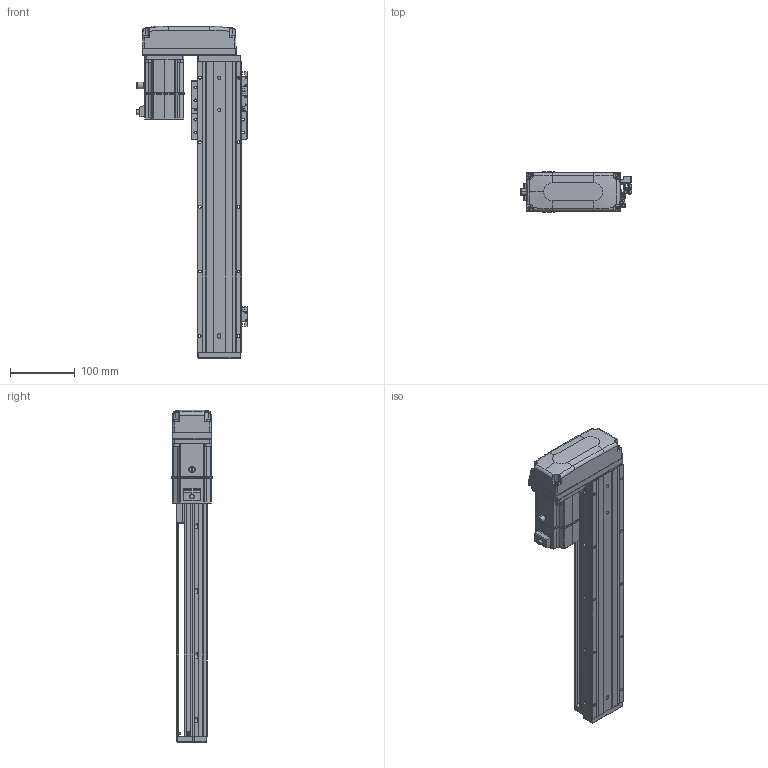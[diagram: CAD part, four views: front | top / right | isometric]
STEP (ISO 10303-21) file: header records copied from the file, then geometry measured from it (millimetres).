
FILE_DESCRIPTION (( 'STEP AP203' ), '1' );
FILE_NAME ('KTHAL60-300-BR-M20-C4L.step', '2022-12-16T02:14:58', ( '微软用户' ), ( '微软中国' ), 'SwSTEP 2.0', 'SolidWorks 2020', '' );
FILE_SCHEMA (( 'CONFIG_CONTROL_DESIGN' ));
Length unit declared in the file: millimetre
Products named in the file (17): CTHA60-021; GTH80-026; KTHA60-004; GBT 70.1-M4×16; KTHAL60-300-BR-M20-C4L; KTHA60-005; GBT77-2000M3-3; GB¨uT 70.2-M3¡Á5_M3¡Á6; GBT 70.1-M3℅6; GBT 70.3-M3℅6; CTHA60-016; EE_SX911P_R; _X2_4E0983F1_X0_200W_1; KTHA60-001_450; CTHA60-017; CTHA60-015-4_CTHA60-015-4; KTHLA60-002
Assembly tree (45 placements, depth 2):
  KTHAL60-300-BR-M20-C4L
    KTHA60-001_450
    KTHLA60-002
    KTHA60-004
    KTHA60-005
    GB¨uT 70.2-M3¡Á5_M3¡Á6  x5
    GBT 70.3-M3℅6  x4
    EE_SX911P_R  x3
    CTHA60-017  x3
    CTHA60-021  x2
    GBT 70.1-M4×16  x8
    GBT77-2000M3-3  x6
    GBT 70.1-M3℅6  x6
    CTHA60-016
    _X2_4E0983F1_X0_200W_1
    CTHA60-015-4_CTHA60-015-4
    GTH80-026
Bounding box: 173.02 x 62.42 x 514 mm (x, y, z)
Volume: 1595974.3 mm3; surface area: 329857.6 mm2
Topology: 48 solids, 48 shells, 2311 faces, 5492 edges, 3373 vertices
Faces by surface type: plane 1235, cylinder 611, cone 266, bspline 103, torus 82, sphere 14
Entity records: 44601 total; most frequent: CARTESIAN_POINT 10042, DIRECTION 6701, ORIENTED_EDGE 6608, EDGE_CURVE 3304, AXIS2_PLACEMENT_3D 2316, LINE 2069, VECTOR 2069, VERTEX_POINT 2057
